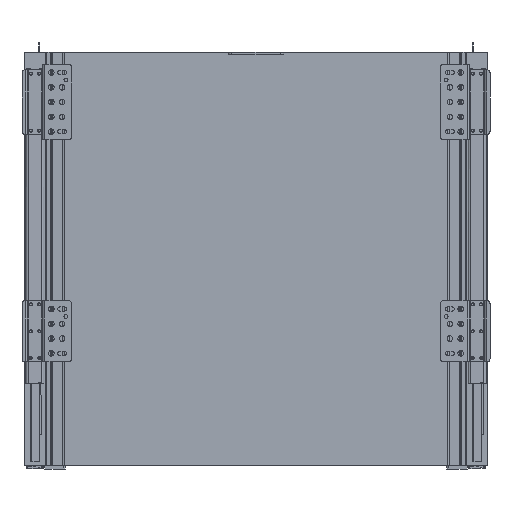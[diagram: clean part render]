
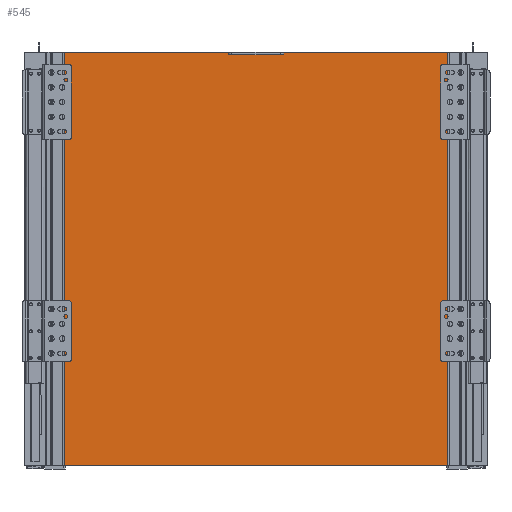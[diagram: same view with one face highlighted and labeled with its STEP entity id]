
A CAD part, front view. The second image highlights one B-rep face of the part: STEP entity #545.
In plain terms, the highlighted planar face has unit normal (0, -1, 0).
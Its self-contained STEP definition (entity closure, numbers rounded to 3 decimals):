
#114=DIRECTION('',(0.,0.,-1.));
#115=VECTOR('',#114,447.);
#116=CARTESIAN_POINT('',(-227.,0.,0.));
#117=LINE('',#116,#115);
#199=DIRECTION('',(0.,0.,-1.));
#200=VECTOR('',#199,2.8);
#201=CARTESIAN_POINT('',(30.,0.,0.));
#202=LINE('',#201,#200);
#203=DIRECTION('',(1.,0.,0.));
#204=VECTOR('',#203,60.);
#205=CARTESIAN_POINT('',(-30.,0.,-2.8));
#206=LINE('',#205,#204);
#207=DIRECTION('',(1.,0.,0.));
#208=VECTOR('',#207,197.);
#209=CARTESIAN_POINT('',(30.,0.,0.));
#210=LINE('',#209,#208);
#211=DIRECTION('',(0.,0.,-1.));
#212=VECTOR('',#211,447.);
#213=CARTESIAN_POINT('',(227.,0.,0.));
#214=LINE('',#213,#212);
#215=DIRECTION('',(1.,0.,0.));
#216=VECTOR('',#215,197.);
#217=CARTESIAN_POINT('',(-227.,0.,0.));
#218=LINE('',#217,#216);
#219=DIRECTION('',(0.,0.,-1.));
#220=VECTOR('',#219,2.8);
#221=CARTESIAN_POINT('',(-30.,0.,0.));
#222=LINE('',#221,#220);
#227=DIRECTION('',(1.,0.,0.));
#228=VECTOR('',#227,454.);
#229=CARTESIAN_POINT('',(-227.,0.,-447.));
#230=LINE('',#229,#228);
#253=CARTESIAN_POINT('',(30.,0.,-2.8));
#254=VERTEX_POINT('',#253);
#255=CARTESIAN_POINT('',(-30.,0.,-2.8));
#256=VERTEX_POINT('',#255);
#259=CARTESIAN_POINT('',(-30.,0.,0.));
#260=VERTEX_POINT('',#259);
#261=CARTESIAN_POINT('',(-227.,0.,0.));
#262=VERTEX_POINT('',#261);
#267=CARTESIAN_POINT('',(227.,0.,0.));
#268=VERTEX_POINT('',#267);
#269=CARTESIAN_POINT('',(30.,0.,0.));
#270=VERTEX_POINT('',#269);
#271=CARTESIAN_POINT('',(227.,0.,-447.));
#272=VERTEX_POINT('',#271);
#273=CARTESIAN_POINT('',(-227.,0.,-447.));
#274=VERTEX_POINT('',#273);
#528=CARTESIAN_POINT('',(-227.,0.,0.));
#529=DIRECTION('',(0.,-1.,0.));
#530=DIRECTION('',(1.,0.,0.));
#531=AXIS2_PLACEMENT_3D('',#528,#529,#530);
#532=PLANE('',#531);
#533=ORIENTED_EDGE('',*,*,#482,.T.);
#534=ORIENTED_EDGE('',*,*,#522,.F.);
#535=ORIENTED_EDGE('',*,*,#444,.T.);
#536=ORIENTED_EDGE('',*,*,#341,.T.);
#538=ORIENTED_EDGE('',*,*,#537,.F.);
#539=ORIENTED_EDGE('',*,*,#382,.F.);
#540=ORIENTED_EDGE('',*,*,#439,.T.);
#542=ORIENTED_EDGE('',*,*,#541,.T.);
#543=EDGE_LOOP('',(#533,#534,#535,#536,#538,#539,#540,#542));
#544=FACE_OUTER_BOUND('',#543,.F.);
#341=EDGE_CURVE('',#268,#272,#214,.T.);
#382=EDGE_CURVE('',#262,#274,#117,.T.);
#439=EDGE_CURVE('',#262,#260,#218,.T.);
#444=EDGE_CURVE('',#270,#268,#210,.T.);
#482=EDGE_CURVE('',#256,#254,#206,.T.);
#522=EDGE_CURVE('',#270,#254,#202,.T.);
#537=EDGE_CURVE('',#274,#272,#230,.T.);
#541=EDGE_CURVE('',#260,#256,#222,.T.);
#545=ADVANCED_FACE('',(#544),#532,.T.);
